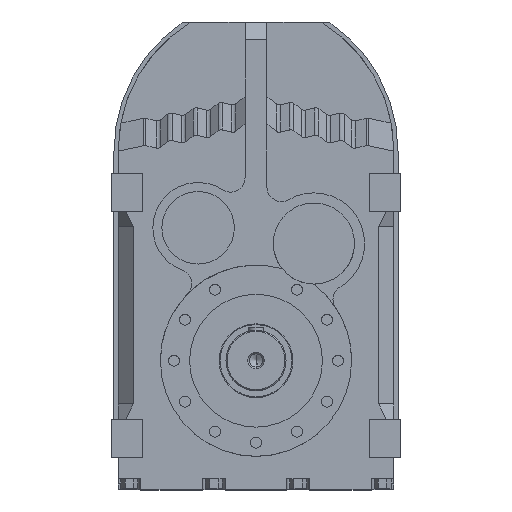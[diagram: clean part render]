
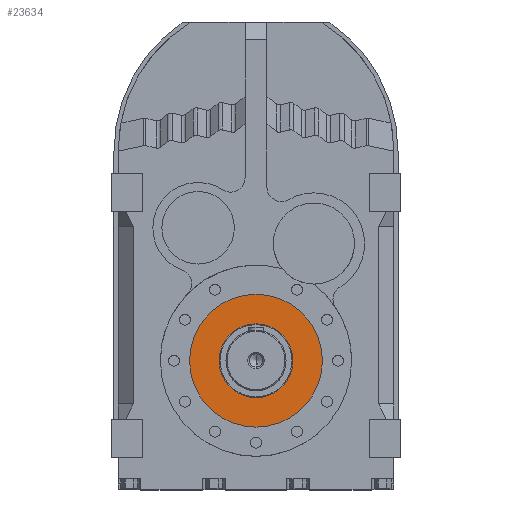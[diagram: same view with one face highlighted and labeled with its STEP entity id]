
A CAD part, top view. The second image highlights one B-rep face of the part: STEP entity #23634.
In plain terms, the highlighted planar face has unit normal (0, 0, 1).
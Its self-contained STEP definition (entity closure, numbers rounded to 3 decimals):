
#14248 = CYLINDRICAL_SURFACE('',#14249,121.5);
#14249 = AXIS2_PLACEMENT_3D('',#14250,#14251,#14252);
#14250 = CARTESIAN_POINT('',(0.,-382.6,110.123));
#14251 = DIRECTION('',(0.,0.,1.));
#14252 = DIRECTION('',(1.,0.,0.));
#14274 = CYLINDRICAL_SURFACE('',#14275,121.5);
#14275 = AXIS2_PLACEMENT_3D('',#14276,#14277,#14278);
#14276 = CARTESIAN_POINT('',(0.,-382.6,110.123));
#14277 = DIRECTION('',(0.,0.,1.));
#14278 = DIRECTION('',(1.,0.,0.));
#20200 = EDGE_CURVE('',#20201,#20203,#20205,.T.);
#20201 = VERTEX_POINT('',#20202);
#20202 = CARTESIAN_POINT('',(-121.5,-382.6,369.));
#20203 = VERTEX_POINT('',#20204);
#20204 = CARTESIAN_POINT('',(121.5,-382.6,369.));
#20205 = SURFACE_CURVE('',#20206,(#20211,#20217),.PCURVE_S1.);
#20206 = CIRCLE('',#20207,121.5);
#20207 = AXIS2_PLACEMENT_3D('',#20208,#20209,#20210);
#20208 = CARTESIAN_POINT('',(0.,-382.6,369.));
#20209 = DIRECTION('',(0.,0.,1.));
#20210 = DIRECTION('',(1.,0.,0.));
#20211 = PCURVE('',#14274,#20212);
#20212 = DEFINITIONAL_REPRESENTATION('',(#20213),#20216);
#20213 = B_SPLINE_CURVE_WITH_KNOTS('',1,(#20214,#20215),.UNSPECIFIED.,
  .F.,.F.,(2,2),(3.142,6.283),.PIECEWISE_BEZIER_KNOTS.);
#20214 = CARTESIAN_POINT('',(3.142,258.877));
#20215 = CARTESIAN_POINT('',(6.283,258.877));
#20216 = ( GEOMETRIC_REPRESENTATION_CONTEXT(2) 
PARAMETRIC_REPRESENTATION_CONTEXT() REPRESENTATION_CONTEXT('2D SPACE',''
  ) );
#20217 = PCURVE('',#20218,#20223);
#20218 = PLANE('',#20219);
#20219 = AXIS2_PLACEMENT_3D('',#20220,#20221,#20222);
#20220 = CARTESIAN_POINT('',(0.,-261.1,369.));
#20221 = DIRECTION('',(0.,0.,1.));
#20222 = DIRECTION('',(1.,0.,0.));
#20223 = DEFINITIONAL_REPRESENTATION('',(#20224),#20228);
#20224 = CIRCLE('',#20225,121.5);
#20225 = AXIS2_PLACEMENT_2D('',#20226,#20227);
#20226 = CARTESIAN_POINT('',(0.,-121.5));
#20227 = DIRECTION('',(1.,0.));
#20228 = ( GEOMETRIC_REPRESENTATION_CONTEXT(2) 
PARAMETRIC_REPRESENTATION_CONTEXT() REPRESENTATION_CONTEXT('2D SPACE',''
  ) );
#20518 = EDGE_CURVE('',#20203,#20201,#20519,.T.);
#20519 = SURFACE_CURVE('',#20520,(#20525,#20531),.PCURVE_S1.);
#20520 = CIRCLE('',#20521,121.5);
#20521 = AXIS2_PLACEMENT_3D('',#20522,#20523,#20524);
#20522 = CARTESIAN_POINT('',(0.,-382.6,369.));
#20523 = DIRECTION('',(0.,0.,1.));
#20524 = DIRECTION('',(1.,0.,0.));
#20525 = PCURVE('',#14248,#20526);
#20526 = DEFINITIONAL_REPRESENTATION('',(#20527),#20530);
#20527 = B_SPLINE_CURVE_WITH_KNOTS('',1,(#20528,#20529),.UNSPECIFIED.,
  .F.,.F.,(2,2),(0.,3.142),.PIECEWISE_BEZIER_KNOTS.);
#20528 = CARTESIAN_POINT('',(0.,258.877));
#20529 = CARTESIAN_POINT('',(3.142,258.877));
#20530 = ( GEOMETRIC_REPRESENTATION_CONTEXT(2) 
PARAMETRIC_REPRESENTATION_CONTEXT() REPRESENTATION_CONTEXT('2D SPACE',''
  ) );
#20531 = PCURVE('',#20218,#20532);
#20532 = DEFINITIONAL_REPRESENTATION('',(#20533),#20537);
#20533 = CIRCLE('',#20534,121.5);
#20534 = AXIS2_PLACEMENT_2D('',#20535,#20536);
#20535 = CARTESIAN_POINT('',(0.,-121.5));
#20536 = DIRECTION('',(1.,0.));
#20537 = ( GEOMETRIC_REPRESENTATION_CONTEXT(2) 
PARAMETRIC_REPRESENTATION_CONTEXT() REPRESENTATION_CONTEXT('2D SPACE',''
  ) );
#23634 = ADVANCED_FACE('',(#23635,#23639),#20218,.T.);
#23635 = FACE_BOUND('',#23636,.T.);
#23636 = EDGE_LOOP('',(#23637,#23638));
#23637 = ORIENTED_EDGE('',*,*,#20518,.T.);
#23638 = ORIENTED_EDGE('',*,*,#20200,.T.);
#23639 = FACE_BOUND('',#23640,.T.);
#23640 = EDGE_LOOP('',(#23641,#23671));
#23641 = ORIENTED_EDGE('',*,*,#23642,.F.);
#23642 = EDGE_CURVE('',#23643,#23645,#23647,.T.);
#23643 = VERTEX_POINT('',#23644);
#23644 = CARTESIAN_POINT('',(67.5,-382.6,369.));
#23645 = VERTEX_POINT('',#23646);
#23646 = CARTESIAN_POINT('',(-67.5,-382.6,369.));
#23647 = SURFACE_CURVE('',#23648,(#23653,#23660),.PCURVE_S1.);
#23648 = CIRCLE('',#23649,67.5);
#23649 = AXIS2_PLACEMENT_3D('',#23650,#23651,#23652);
#23650 = CARTESIAN_POINT('',(0.,-382.6,369.));
#23651 = DIRECTION('',(0.,0.,1.));
#23652 = DIRECTION('',(1.,0.,0.));
#23653 = PCURVE('',#20218,#23654);
#23654 = DEFINITIONAL_REPRESENTATION('',(#23655),#23659);
#23655 = CIRCLE('',#23656,67.5);
#23656 = AXIS2_PLACEMENT_2D('',#23657,#23658);
#23657 = CARTESIAN_POINT('',(0.,-121.5));
#23658 = DIRECTION('',(1.,0.));
#23659 = ( GEOMETRIC_REPRESENTATION_CONTEXT(2) 
PARAMETRIC_REPRESENTATION_CONTEXT() REPRESENTATION_CONTEXT('2D SPACE',''
  ) );
#23660 = PCURVE('',#23661,#23666);
#23661 = CYLINDRICAL_SURFACE('',#23662,67.5);
#23662 = AXIS2_PLACEMENT_3D('',#23663,#23664,#23665);
#23663 = CARTESIAN_POINT('',(0.,-382.6,110.123));
#23664 = DIRECTION('',(0.,0.,1.));
#23665 = DIRECTION('',(1.,0.,0.));
#23666 = DEFINITIONAL_REPRESENTATION('',(#23667),#23670);
#23667 = B_SPLINE_CURVE_WITH_KNOTS('',1,(#23668,#23669),.UNSPECIFIED.,
  .F.,.F.,(2,2),(0.,3.142),.PIECEWISE_BEZIER_KNOTS.);
#23668 = CARTESIAN_POINT('',(0.,258.877));
#23669 = CARTESIAN_POINT('',(3.142,258.877));
#23670 = ( GEOMETRIC_REPRESENTATION_CONTEXT(2) 
PARAMETRIC_REPRESENTATION_CONTEXT() REPRESENTATION_CONTEXT('2D SPACE',''
  ) );
#23671 = ORIENTED_EDGE('',*,*,#23672,.F.);
#23672 = EDGE_CURVE('',#23645,#23643,#23673,.T.);
#23673 = SURFACE_CURVE('',#23674,(#23679,#23686),.PCURVE_S1.);
#23674 = CIRCLE('',#23675,67.5);
#23675 = AXIS2_PLACEMENT_3D('',#23676,#23677,#23678);
#23676 = CARTESIAN_POINT('',(0.,-382.6,369.));
#23677 = DIRECTION('',(0.,0.,1.));
#23678 = DIRECTION('',(1.,0.,0.));
#23679 = PCURVE('',#20218,#23680);
#23680 = DEFINITIONAL_REPRESENTATION('',(#23681),#23685);
#23681 = CIRCLE('',#23682,67.5);
#23682 = AXIS2_PLACEMENT_2D('',#23683,#23684);
#23683 = CARTESIAN_POINT('',(0.,-121.5));
#23684 = DIRECTION('',(1.,0.));
#23685 = ( GEOMETRIC_REPRESENTATION_CONTEXT(2) 
PARAMETRIC_REPRESENTATION_CONTEXT() REPRESENTATION_CONTEXT('2D SPACE',''
  ) );
#23686 = PCURVE('',#23687,#23692);
#23687 = CYLINDRICAL_SURFACE('',#23688,67.5);
#23688 = AXIS2_PLACEMENT_3D('',#23689,#23690,#23691);
#23689 = CARTESIAN_POINT('',(0.,-382.6,110.123));
#23690 = DIRECTION('',(0.,0.,1.));
#23691 = DIRECTION('',(1.,0.,0.));
#23692 = DEFINITIONAL_REPRESENTATION('',(#23693),#23696);
#23693 = B_SPLINE_CURVE_WITH_KNOTS('',1,(#23694,#23695),.UNSPECIFIED.,
  .F.,.F.,(2,2),(3.142,6.283),.PIECEWISE_BEZIER_KNOTS.);
#23694 = CARTESIAN_POINT('',(3.142,258.877));
#23695 = CARTESIAN_POINT('',(6.283,258.877));
#23696 = ( GEOMETRIC_REPRESENTATION_CONTEXT(2) 
PARAMETRIC_REPRESENTATION_CONTEXT() REPRESENTATION_CONTEXT('2D SPACE',''
  ) );
